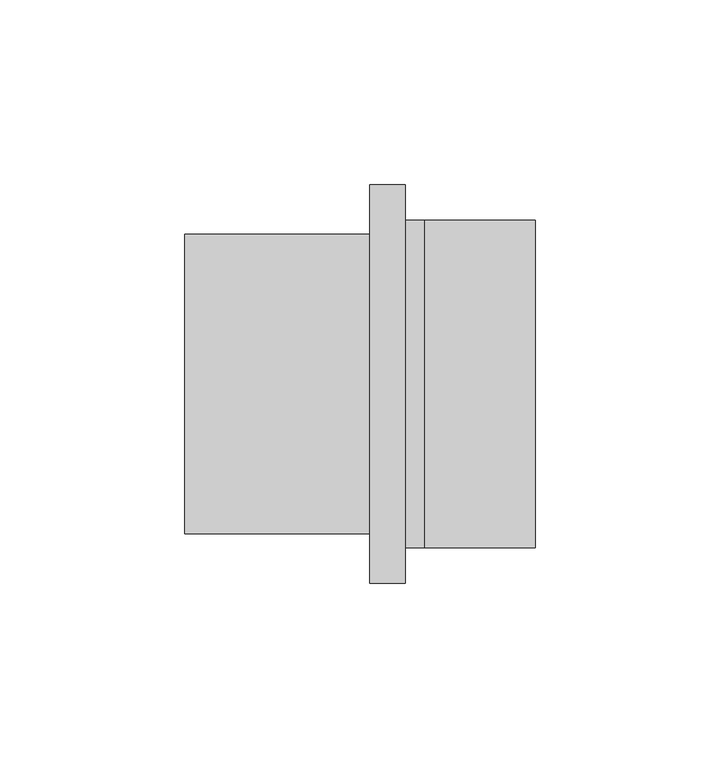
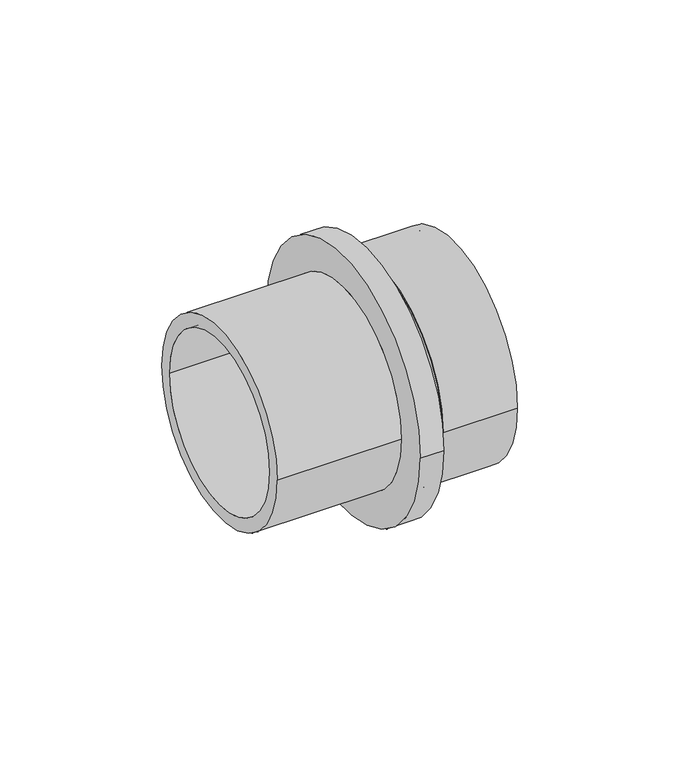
"""IFC4 building model written with IfcOpenShell, lengths in millimetres: pipe fitting geometry, Adapter with welding end : A welding RX."""

from ifc_helpers import new_model, si_unit, point, frame, origin, origin_2d, place, context, project, spatial, polyline, circle_curve, trimmed, segment, composite_curve, outline, extrude, source, transform, mapped, element, save
from ifc_brep_helpers import plane_surface, cylinder_surface, revolved_surface, advanced_brep


def pipe_fitting_2a62b2ce(model_context):
    return source(origin(), model_context, "Body", "SolidModel", [
        extrude(outline(composite_curve([segment(trimmed(circle_curve(origin_2d(), 44.4), [point((-44.4, 0.0))], [point((44.4, 0.0))], False, "CARTESIAN"), True, "CONTINUOUS"), segment(trimmed(circle_curve(origin_2d(), 44.4), [point((44.4, 0.0))], [point((-44.4, 0.0))], False, "CARTESIAN"), True, "CONTINUOUS")], self_intersect=False), holes=[composite_curve([segment(trimmed(circle_curve(origin_2d(), 41.95), [point((41.95, 0.0))], [point((-41.95, 0.0))], True, "CARTESIAN"), True, "CONTINUOUS"), segment(trimmed(circle_curve(origin_2d(), 41.95), [point((-41.95, 0.0))], [point((41.95, 0.0))], True, "CARTESIAN"), True, "CONTINUOUS")], self_intersect=False)]), frame((0.0, 0.0, 0.0), z_axis=(1.0, 0.0, 0.0), x_axis=(0.0, 1.0, 0.0)), (0.0, 0.0, 1.0), 30.0),
        advanced_brep(
        [(0.0, 44.4, 0.0), (0.0, -44.4, 0.0), (-5.3, -44.4, 0.0), (-5.3, 44.4, 0.0), (-5.3, 41.95, 0.0), (-5.3, -41.95, 0.0), (0.0, -41.95, 0.0), (0.0, 41.95, 0.0), (-65.0, 35.0, 0.0), (-65.0, -35.0, 0.0), (-5.3, -35.0, 0.0), (-5.3, 35.0, 0.0), (-14.8, 40.5, 0.0), (-14.8, -40.5, 0.0), (-65.0, -40.5, 0.0), (-65.0, 40.5, 0.0), (-5.3, 54.0, 0.0), (-5.3, -54.0, 0.0), (-14.8, -54.0, 0.0), (-14.8, 54.0, 0.0)],
        [
            (0, 1, circle_curve(frame((0.0, 0.0, 0.0), z_axis=(-1.0, 0.0, 0.0), x_axis=(0.0, -1.0, 0.0)), 44.4)),
            (1, 2),
            (2, 3, circle_curve(frame((-5.3, 0.0, 0.0), z_axis=(1.0, 0.0, 0.0), x_axis=(0.0, -1.0, 0.0)), 44.4)),
            (3, 0),
            (4, 5, circle_curve(frame((-5.3, 0.0, 0.0), z_axis=(-1.0, 0.0, 0.0), x_axis=(0.0, -1.0, 0.0)), 41.95)),
            (5, 6),
            (6, 7, circle_curve(frame((0.0, 0.0, 0.0), z_axis=(1.0, 0.0, 0.0), x_axis=(0.0, -1.0, 0.0)), 41.95)),
            (7, 4),
            (8, 9, circle_curve(frame((-65.0, 0.0, 0.0), z_axis=(-1.0, 0.0, 0.0), x_axis=(0.0, -1.0, 0.0)), 35.0)),
            (9, 10),
            (10, 11, circle_curve(frame((-5.3, 0.0, 0.0), z_axis=(1.0, 0.0, 0.0), x_axis=(0.0, -1.0, 0.0)), 35.0)),
            (11, 8),
            (12, 13, circle_curve(frame((-14.8, 0.0, 0.0), z_axis=(-1.0, 0.0, 0.0), x_axis=(0.0, -1.0, 0.0)), 40.5)),
            (13, 14),
            (14, 15, circle_curve(frame((-65.0, 0.0, 0.0), z_axis=(1.0, 0.0, 0.0), x_axis=(0.0, -1.0, 0.0)), 40.5)),
            (15, 12),
            (16, 17, circle_curve(frame((-5.3, 0.0, 0.0), z_axis=(-1.0, 0.0, 0.0), x_axis=(0.0, -1.0, 0.0)), 54.0)),
            (17, 18),
            (18, 19, circle_curve(frame((-14.8, 0.0, 0.0), z_axis=(1.0, 0.0, 0.0), x_axis=(0.0, -1.0, 0.0)), 54.0)),
            (19, 16),
            (16, 17, circle_curve(frame((-5.3, 0.0, 0.0), z_axis=(1.0, 0.0, 0.0), x_axis=(0.0, 1.0, 0.0)), 54.0)),
            (2, 3, circle_curve(frame((-5.3, 0.0, 0.0), z_axis=(-1.0, 0.0, 0.0), x_axis=(0.0, 1.0, 0.0)), 44.4)),
            (1, 0, circle_curve(frame((0.0, 0.0, 0.0), z_axis=(-1.0, 0.0, 0.0), x_axis=(0.0, 1.0, 0.0)), 44.4)),
            (6, 7, circle_curve(frame((0.0, 0.0, 0.0), z_axis=(-1.0, 0.0, 0.0), x_axis=(0.0, 1.0, 0.0)), 41.95)),
            (5, 4, circle_curve(frame((-5.3, 0.0, 0.0), z_axis=(-1.0, 0.0, 0.0), x_axis=(0.0, 1.0, 0.0)), 41.95)),
            (10, 11, circle_curve(frame((-5.3, 0.0, 0.0), z_axis=(-1.0, 0.0, 0.0), x_axis=(0.0, 1.0, 0.0)), 35.0)),
            (9, 8, circle_curve(frame((-65.0, 0.0, 0.0), z_axis=(-1.0, 0.0, 0.0), x_axis=(0.0, 1.0, 0.0)), 35.0)),
            (14, 15, circle_curve(frame((-65.0, 0.0, 0.0), z_axis=(-1.0, 0.0, 0.0), x_axis=(0.0, 1.0, 0.0)), 40.5)),
            (13, 12, circle_curve(frame((-14.8, 0.0, 0.0), z_axis=(-1.0, 0.0, 0.0), x_axis=(0.0, 1.0, 0.0)), 40.5)),
            (18, 19, circle_curve(frame((-14.8, 0.0, 0.0), z_axis=(-1.0, 0.0, 0.0), x_axis=(0.0, 1.0, 0.0)), 54.0)),
        ],
        [
            cylinder_surface(frame((0.0, 0.0, 0.0), z_axis=(1.0, 0.0, 0.0), x_axis=(0.0, -1.0, 0.0)), 44.4),
            revolved_surface(polyline([(0.0, -41.95, 0.0), (-5.3, -41.95, 0.0)]), (0.0, 0.0, 0.0), (1.0, 0.0, 0.0)),
            revolved_surface(polyline([(-5.3, -35.0, 0.0), (-65.0, -35.0, 0.0)]), (0.0, 0.0, 0.0), (1.0, 0.0, 0.0)),
            cylinder_surface(frame((0.0, 0.0, 0.0), z_axis=(1.0, 0.0, 0.0), x_axis=(0.0, -1.0, 0.0)), 40.5),
            cylinder_surface(frame((0.0, 0.0, 0.0), z_axis=(1.0, 0.0, 0.0), x_axis=(0.0, -1.0, 0.0)), 54.0),
            plane_surface(frame((-5.3, 0.0, 0.0), z_axis=(1.0, 0.0, 0.0), x_axis=(0.0, 1.0, 0.0))),
            cylinder_surface(frame((0.0, 0.0, 0.0), z_axis=(1.0, 0.0, 0.0), x_axis=(0.0, 1.0, 0.0)), 44.4),
            plane_surface(frame((0.0, 0.0, 0.0), z_axis=(1.0, 0.0, 0.0), x_axis=(0.0, 1.0, 0.0))),
            revolved_surface(polyline([(0.0, 41.95, 0.0), (-5.3, 41.95, 0.0)]), (0.0, 0.0, 0.0), (1.0, 0.0, 0.0)),
            revolved_surface(polyline([(-5.3, 35.0, 0.0), (-65.0, 35.0, 0.0)]), (0.0, 0.0, 0.0), (1.0, 0.0, 0.0)),
            plane_surface(frame((-65.0, 0.0, 0.0), z_axis=(-1.0, 0.0, 0.0), x_axis=(0.0, 1.0, 0.0))),
            cylinder_surface(frame((0.0, 0.0, 0.0), z_axis=(1.0, 0.0, 0.0), x_axis=(0.0, 1.0, 0.0)), 40.5),
            plane_surface(frame((-14.8, 0.0, 0.0), z_axis=(-1.0, 0.0, 0.0), x_axis=(0.0, 1.0, 0.0))),
            cylinder_surface(frame((0.0, 0.0, 0.0), z_axis=(1.0, 0.0, 0.0), x_axis=(0.0, 1.0, 0.0)), 54.0),
        ],
        [
            (0, [[1, 2, 3, 4]]),
            (1, [[5, 6, 7, 8]]),
            (2, [[9, 10, 11, 12]]),
            (3, [[13, 14, 15, 16]]),
            (4, [[17, 18, 19, 20]]),
            (5, [[21, -17], [22, -3]]),
            (6, [[23, -4, -22, -2]]),
            (7, [[-23, -1], [24, -7]]),
            (8, [[25, -8, -24, -6]]),
            (5, [[-25, -5], [26, -11]]),
            (9, [[27, -12, -26, -10]]),
            (10, [[28, -15], [-27, -9]]),
            (11, [[29, -16, -28, -14]]),
            (12, [[30, -19], [-29, -13]]),
            (13, [[-21, -20, -30, -18]]),
        ],
    ),
    ])


if __name__ == "__main__":
    model = new_model("IFC4")
    model_context = context("Model", 3, world=origin())
    ifc_project = project(units=[si_unit("LENGTHUNIT", "METRE", prefix="MILLI")], contexts=[model_context])
    site = spatial("IfcSite", under=ifc_project)
    building = spatial("IfcBuilding", under=site)
    placement = place(None, origin())
    pipe_fitting_shape = pipe_fitting_2a62b2ce(model_context)
    element("IfcPipeFitting", 1, ObjectType="Adapter with welding end : A welding RX", at=placement, inside=building, context=model_context, shape_type="MappedRepresentation", body=[
        mapped(pipe_fitting_shape, transform((0.0, 0.0, 0.0), x_axis=(1.0, 0.0, 0.0), y_axis=(0.0, 1.0, 0.0), z_axis=(0.0, 0.0, 1.0))),
    ])
    save(model, "model.ifc")
